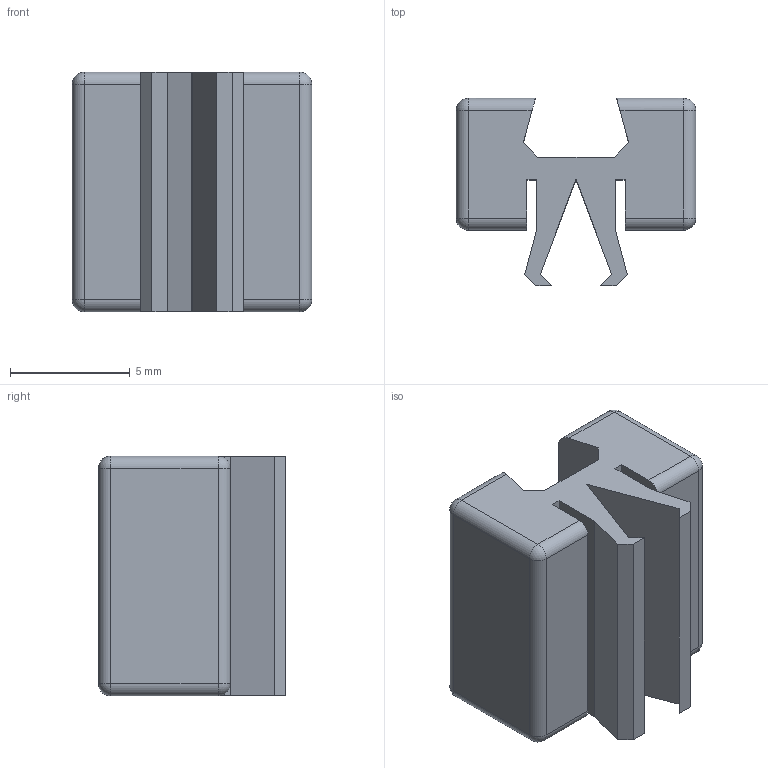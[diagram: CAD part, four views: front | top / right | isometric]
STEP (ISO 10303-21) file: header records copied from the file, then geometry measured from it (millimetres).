
FILE_DESCRIPTION(/* description */ (''),/* implementation_level */ '2;1');
FILE_NAME(/* name */ 'C:/Users/priba/Downloads/Brick 1x1x0.55mf.step',/* time_stamp */ '2022-04-03T10:40:23+02:00',/* author */ (''),/* organization */ (''),/* preprocessor_version */ 'ST-DEVELOPER v18.1',/* originating_system */ 'Autodesk Translation Framework v10.13.0.1454',/* authorisation */ '');
FILE_SCHEMA (('AUTOMOTIVE_DESIGN { 1 0 10303 214 3 1 1 }'));
Length unit declared in the file: millimetre
Products named in the file (1): Brick 1x1x0.55mf
Bounding box: 10 x 7.81 x 10 mm (x, y, z)
Volume: 450.3 mm3; surface area: 647.7 mm2
Topology: 1 solids, 1 shells, 54 faces, 132 edges, 80 vertices
Faces by surface type: plane 30, cylinder 16, sphere 8
Entity records: 1578 total; most frequent: DIRECTION 274, CARTESIAN_POINT 267, ORIENTED_EDGE 264, EDGE_CURVE 132, LINE 100, VECTOR 100, AXIS2_PLACEMENT_3D 87, VERTEX_POINT 80
